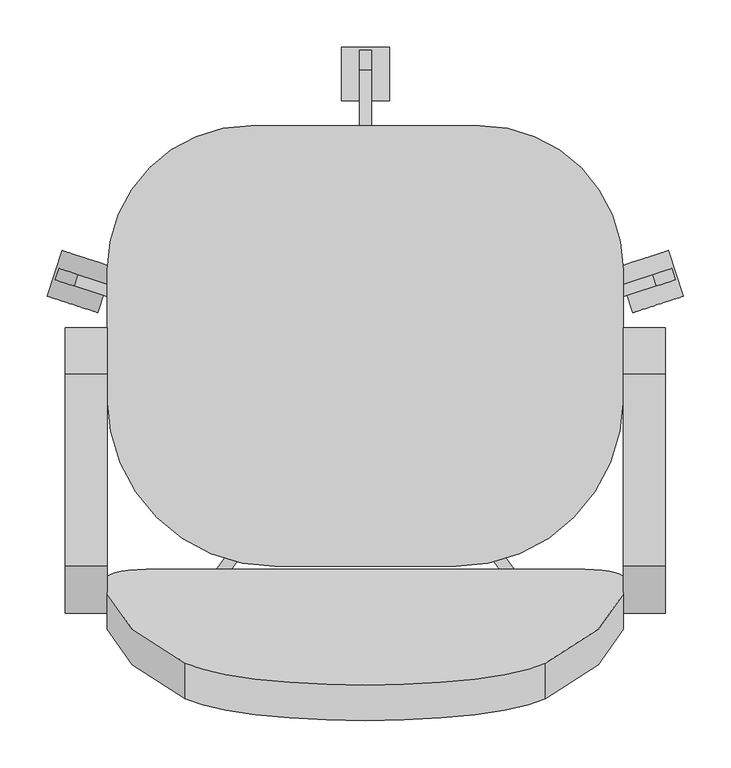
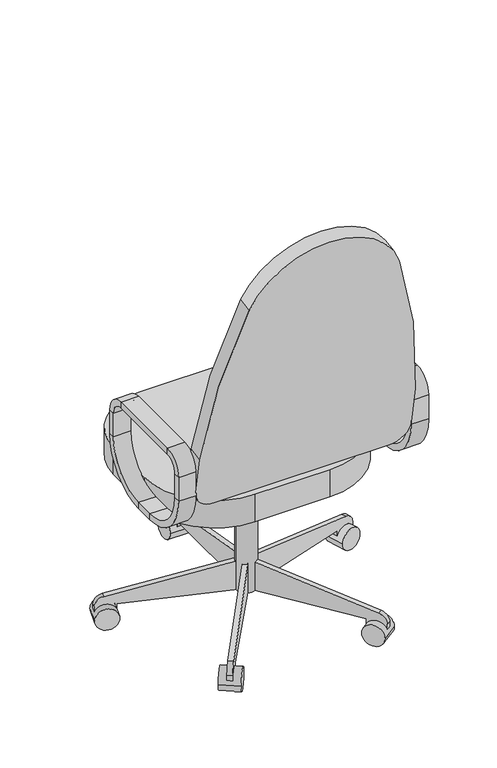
"""IFC4 building model written with IfcOpenShell, lengths in millimetres: furniture geometry, M_Silla-Ejecutivo : M_Silla-Ejecutivo."""

from ifc_helpers import new_model, si_unit, point, frame, frame_2d, origin, place, context, project, spatial, polyline, circle_curve, trimmed, segment, composite_curve, outline, extrude, source, transform, mapped, element, save
from ifc_brep_helpers import plane_surface, cylinder_surface, revolved_surface, advanced_brep


def furniture_a6d00652(model_context):
    return source(origin(), model_context, "Body", "SolidModel", [
        extrude(outline(polyline([(69.7459016, 383.7835944), (69.7459016, 371.0835944), (18.9459016, 283.0954134), (-19.1540984, 283.0954134), (-19.1540984, 383.7835944), (69.7459016, 383.7835944)])), frame((90.1908197, 0.0, 0.0), z_axis=(1.0, 0.0, 0.0), x_axis=(0.0, 1.0, 0.0)), (0.0, 0.0, 1.0), 101.6),
        extrude(outline(composite_curve([segment(polyline([(311.0459016, 53.5835944), (18.9459016, 53.5835944), (18.9459016, 129.7835944), (44.3459016, 129.7835944), (340.8565654, 77.5007643)]), True, "CONTINUOUS"), segment(trimmed(circle_curve(frame_2d((336.4459016, 52.4866474)), 25.4), [point((340.8565654, 77.5007643))], [point((361.8459016, 52.4866474))], False, "CARTESIAN"), True, "CONTINUOUS"), segment(polyline([(361.8459016, 52.4866474), (361.8459016, 28.1835944), (311.0459016, 28.1835944), (311.0459016, 53.5835944)]), True, "CONTINUOUS")], self_intersect=False)), frame((134.6408197, 0.0, 0.0), z_axis=(1.0, 0.0, 0.0), x_axis=(0.0, 1.0, 0.0)), (0.0, 0.0, 1.0), 12.7),
        extrude(outline(composite_curve([segment(trimmed(circle_curve(frame_2d((336.4459016, 28.1835944)), 28.2002727), [point((308.2456289, 28.1835944))], [point((364.6461744, 28.1835944))], False, "CARTESIAN"), True, "CONTINUOUS"), segment(trimmed(circle_curve(frame_2d((336.4459016, 28.1835944)), 28.2002727), [point((364.6461744, 28.1835944))], [point((308.2456289, 28.1835944))], False, "CARTESIAN"), True, "CONTINUOUS")], self_intersect=False)), frame((115.5908197, 0.0, 0.0), z_axis=(1.0, 0.0, 0.0), x_axis=(0.0, 1.0, 0.0)), (0.0, 0.0, 1.0), 50.8),
        extrude(outline(composite_curve([segment(polyline([(25.4, 0.0), (25.4, 292.1000001), (101.6, 292.1000001), (101.6, 266.7), (49.3171699, -29.8106636)]), True, "CONTINUOUS"), segment(trimmed(circle_curve(frame_2d((24.303053, -25.4)), 25.4), [point((49.3171699, -29.8106636))], [point((24.303053, -50.8))], False, "CARTESIAN"), True, "CONTINUOUS"), segment(polyline([(24.303053, -50.8), (0.0, -50.8), (0.0, 0.0), (25.4, 0.0)]), True, "CONTINUOUS")], self_intersect=False)), frame((-138.7750467, 103.1705568, 28.1835944), z_axis=(0.3090169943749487, 0.9510565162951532, 0.0), x_axis=(0.0, 0.0, 1.0)), (0.0, 0.0, 1.0), 12.7),
        extrude(outline(composite_curve([segment(trimmed(circle_curve(frame_2d((0.0, -28.2002727)), 28.2002727), [point((0.0, -56.4005454))], [point((0.0, 0.0))], False, "CARTESIAN"), True, "CONTINUOUS"), segment(trimmed(circle_curve(frame_2d((0.0, -28.2002727)), 28.2002727), [point((0.0, 0.0))], [point((0.0, -56.4005454))], False, "CARTESIAN"), True, "CONTINUOUS")], self_intersect=False)), frame((-195.638709, 101.6163254, 28.1835944), z_axis=(0.3090169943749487, 0.9510565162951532, 0.0), x_axis=(0.0, 0.0, -1.0)), (0.0, 0.0, 1.0), 50.8),
        extrude(outline(composite_curve([segment(polyline([(25.4, 0.0), (25.4, 292.1), (101.6, 292.1), (101.6, 266.7), (49.3171699, -29.8106637)]), True, "CONTINUOUS"), segment(trimmed(circle_curve(frame_2d((24.303053, -25.3999999)), 25.4), [point((49.3171699, -29.8106637))], [point((24.303053, -50.8))], False, "CARTESIAN"), True, "CONTINUOUS"), segment(polyline([(24.303053, -50.8), (0.0, -50.8), (0.0, 0.0), (25.4, 0.0)]), True, "CONTINUOUS")], self_intersect=False)), frame((-25.5639946, -221.1003988, 28.1835944), z_axis=(-0.8090169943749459, 0.5877852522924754, 0.0), x_axis=(0.0, 0.0, 1.0)), (0.0, 0.0, 1.0), 12.7),
        extrude(outline(composite_curve([segment(trimmed(circle_curve(frame_2d((0.0, -28.2002727)), 28.2002727), [point((0.0, -56.4005455))], [point((0.0, 0.0))], False, "CARTESIAN"), True, "CONTINUOUS"), segment(trimmed(circle_curve(frame_2d((0.0, -28.2002727)), 28.2002727), [point((0.0, 0.0))], [point((0.0, -56.4005455))], False, "CARTESIAN"), True, "CONTINUOUS")], self_intersect=False)), frame((-41.6576707, -275.6612394, 28.1835944), z_axis=(-0.8090169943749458, 0.5877852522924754, 0.0), x_axis=(0.0, 0.0, -1.0)), (0.0, 0.0, 1.0), 50.8),
        extrude(outline(composite_curve([segment(polyline([(-25.4, 0.0), (0.0, 0.0), (0.0, -50.8), (-24.303053, -50.8)]), True, "CONTINUOUS"), segment(trimmed(circle_curve(frame_2d((-24.303053, -25.3999999)), 25.4), [point((-24.303053, -50.8))], [point((-49.3171699, -29.8106636))], False, "CARTESIAN"), True, "CONTINUOUS"), segment(polyline([(-49.3171699, -29.8106636), (-101.6, 266.7), (-101.6, 292.1), (-25.4, 292.1), (-25.4, 0.0)]), True, "CONTINUOUS")], self_intersect=False)), frame((307.545634, -221.1003988, 28.1835944), z_axis=(0.8090169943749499, 0.5877852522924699, 0.0), x_axis=(0.0, 0.0, -1.0)), (0.0, 0.0, 1.0), 12.7),
        extrude(outline(composite_curve([segment(trimmed(circle_curve(frame_2d((0.0, -28.2002727)), 28.2002727), [point((0.0, -56.4005455))], [point((0.0, 0.0))], False, "CARTESIAN"), True, "CONTINUOUS"), segment(trimmed(circle_curve(frame_2d((0.0, -28.2002727)), 28.2002727), [point((0.0, 0.0))], [point((0.0, -56.4005455))], False, "CARTESIAN"), True, "CONTINUOUS")], self_intersect=False)), frame((323.63931, -275.6612394, 28.1835944), z_axis=(0.8090169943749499, 0.5877852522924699, 0.0), x_axis=(0.0, 0.0, 1.0)), (0.0, 0.0, 1.0), 50.8),
        extrude(outline(composite_curve([segment(polyline([(-25.4, 0.0), (0.0, 0.0), (0.0, -50.8), (-24.303053, -50.8)]), True, "CONTINUOUS"), segment(trimmed(circle_curve(frame_2d((-24.303053, -25.4)), 25.4), [point((-24.303053, -50.8))], [point((-49.3171699, -29.8106637))], False, "CARTESIAN"), True, "CONTINUOUS"), segment(polyline([(-49.3171699, -29.8106637), (-101.6, 266.7), (-101.6, 292.1), (-25.4, 292.1), (-25.4, 0.0)]), True, "CONTINUOUS")], self_intersect=False)), frame((420.756686, 103.1705568, 28.1835944), z_axis=(-0.3090169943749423, 0.9510565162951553, 0.0), x_axis=(0.0, 0.0, -1.0)), (0.0, 0.0, 1.0), 12.7),
        extrude(outline(composite_curve([segment(trimmed(circle_curve(frame_2d((0.0, -28.2002727)), 28.2002727), [point((0.0, -56.4005455))], [point((0.0, 0.0))], False, "CARTESIAN"), True, "CONTINUOUS"), segment(trimmed(circle_curve(frame_2d((0.0, -28.2002727)), 28.2002727), [point((0.0, 0.0))], [point((0.0, -56.4005455))], False, "CARTESIAN"), True, "CONTINUOUS")], self_intersect=False)), frame((477.6203484, 101.6163254, 28.1835944), z_axis=(-0.3090169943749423, 0.9510565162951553, 0.0), x_axis=(0.0, 0.0, 1.0)), (0.0, 0.0, 1.0), 50.8),
        extrude(outline(composite_curve([segment(trimmed(circle_curve(frame_2d((140.9908197, 18.9459016)), 25.4), [point((115.5908197, 18.9459016))], [point((166.3908197, 18.9459016))], False, "CARTESIAN"), True, "CONTINUOUS"), segment(trimmed(circle_curve(frame_2d((140.9908197, 18.9459016)), 25.4), [point((166.3908197, 18.9459016))], [point((115.5908197, 18.9459016))], False, "CARTESIAN"), True, "CONTINUOUS")], self_intersect=False)), frame((0.0, 0.0, 53.5835944), z_axis=(0.0, 0.0, 1.0), x_axis=(1.0, 0.0, 0.0)), (0.0, 0.0, 1.0), 330.5914056),
        extrude(outline(composite_curve([segment(trimmed(circle_curve(frame_2d((20.3408197, 129.4961016)), 152.4), [point((-132.0591803, 129.4961016))], [point((20.3408197, 281.8961016))], False, "CARTESIAN"), True, "CONTINUOUS"), segment(polyline([(20.3408197, 281.8961016), (261.6408197, 281.8961016)]), True, "CONTINUOUS"), segment(trimmed(circle_curve(frame_2d((261.6408197, 129.4961016)), 152.4), [point((261.6408197, 281.8961016))], [point((414.0408197, 129.4961016))], False, "CARTESIAN"), True, "CONTINUOUS"), segment(polyline([(414.0408197, 129.4961016), (414.0408197, -6.4540984)]), True, "CONTINUOUS"), segment(trimmed(circle_curve(frame_2d((236.2408197, -6.4540984)), 177.8), [point((414.0408197, -6.4540984))], [point((236.2408197, -184.2540984))], False, "CARTESIAN"), True, "CONTINUOUS"), segment(polyline([(236.2408197, -184.2540984), (45.7408197, -184.2540984)]), True, "CONTINUOUS"), segment(trimmed(circle_curve(frame_2d((45.7408197, -6.4540984)), 177.8), [point((45.7408197, -184.2540984))], [point((-132.0591803, -6.4540984))], False, "CARTESIAN"), True, "CONTINUOUS"), segment(polyline([(-132.0591803, -6.4540984), (-132.0591803, 129.4961016)]), True, "CONTINUOUS")], self_intersect=False)), frame((0.0, 0.0, 383.7835944), z_axis=(0.0, 0.0, 1.0), x_axis=(1.0, 0.0, 0.0)), (0.0, 0.0, 1.0), 73.4164056),
        extrude(outline(composite_curve([segment(trimmed(circle_curve(frame_2d((0.0, -50.8)), 50.8), [point((0.0, 0.0))], [point((50.8, -50.8))], False, "CARTESIAN"), True, "CONTINUOUS"), segment(polyline([(50.8, -50.8), (50.8, -152.4)]), True, "CONTINUOUS"), segment(trimmed(circle_curve(frame_2d((-1471.2021854, -74.3913617)), 1524.0), [point((50.8, -152.4))], [point((-31.75, -574.9444618))], False, "CARTESIAN"), True, "CONTINUOUS"), segment(trimmed(circle_curve(frame_2d((-222.25, -504.2338544)), 203.2), [point((-31.75, -574.9444618))], [point((-412.75, -574.9444618))], False, "CARTESIAN"), True, "CONTINUOUS"), segment(trimmed(circle_curve(frame_2d((1026.7021854, -74.3913617)), 1524.0), [point((-412.75, -574.9444618))], [point((-495.3, -152.4))], False, "CARTESIAN"), True, "CONTINUOUS"), segment(polyline([(-495.3, -152.4), (-495.3, -50.8)]), True, "CONTINUOUS"), segment(trimmed(circle_curve(frame_2d((-444.5, -50.8)), 50.8), [point((-495.3, -50.8))], [point((-444.5, 0.0))], False, "CARTESIAN"), True, "CONTINUOUS"), segment(polyline([(-444.5, 0.0), (0.0, 0.0)]), True, "CONTINUOUS")], self_intersect=False)), frame((363.2408197, -224.5698964, 503.1641822), z_axis=(0.0, 0.9848077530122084, 0.17364817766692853), x_axis=(1.0, 0.0, 0.0)), (0.0, 0.0, 1.0), 38.1),
        advanced_brep(
        [(414.0408197, -233.6623012, 546.1), (414.0408197, -108.0540984, 420.4917972), (458.4908197, -108.0540984, 420.4917972), (458.4908197, -233.6623012, 546.1), (414.0408197, -217.7873012, 546.1), (414.0408197, -108.0540984, 436.3667972), (458.4908197, -217.7873012, 546.1), (458.4908197, -108.0540984, 436.3667972), (458.4908197, -233.6623012, 609.6), (414.0408197, -233.6623012, 609.6), (414.0408197, -217.7873012, 609.6), (458.4908197, -217.7873012, 609.6), (414.0408197, -184.2540984, 659.0082028), (458.4908197, -184.2540984, 659.0082028), (414.0408197, -184.2540984, 643.1332028), (458.4908197, -184.2540984, 643.1332028), (458.4908197, 18.9459016, 659.0082028), (414.0408197, 18.9459016, 659.0082028), (414.0408197, 18.9459016, 643.1332028), (458.4908197, 18.9459016, 643.1332028), (414.0408197, 68.3541044, 609.6), (458.4908197, 68.3541044, 609.6), (414.0408197, 52.4791044, 609.6), (458.4908197, 52.4791044, 609.6), (458.4908197, 68.3541044, 546.1), (414.0408197, 68.3541044, 546.1), (414.0408197, 52.4791044, 546.1), (458.4908197, 52.4791044, 546.1), (414.0408197, -57.2540984, 420.4917972), (458.4908197, -57.2540984, 420.4917972), (414.0408197, -57.2540984, 436.3667972), (458.4908197, -57.2540984, 436.3667972)],
        [
            (0, 1, circle_curve(frame((414.0408197, -108.0540984, 546.1), z_axis=(1.0, 0.0, 0.0), x_axis=(0.0, 0.0, -1.0)), 125.6082028)),
            (1, 2),
            (2, 3, circle_curve(frame((458.4908197, -108.0540984, 546.1), z_axis=(-1.0, 0.0, 0.0), x_axis=(0.0, 0.0, -1.0)), 125.6082028)),
            (3, 0),
            (4, 5, circle_curve(frame((414.0408197, -108.0540984, 546.1), z_axis=(1.0, 0.0, 0.0), x_axis=(0.0, 0.0, -1.0)), 109.7332028)),
            (5, 1),
            (0, 4),
            (6, 7, circle_curve(frame((458.4908197, -108.0540984, 546.1), z_axis=(1.0, 0.0, 0.0), x_axis=(0.0, 0.0, -1.0)), 109.7332028)),
            (7, 5),
            (4, 6),
            (2, 7),
            (6, 3),
            (3, 8),
            (8, 9),
            (9, 0),
            (9, 10),
            (10, 4),
            (10, 11),
            (11, 6),
            (11, 8),
            (12, 9, circle_curve(frame((414.0408197, -184.2540984, 609.6), z_axis=(1.0, 0.0, 0.0), x_axis=(0.0, -1.0, 0.0)), 49.4082028)),
            (8, 13, circle_curve(frame((458.4908197, -184.2540984, 609.6), z_axis=(-1.0, 0.0, 0.0), x_axis=(0.0, -1.0, 0.0)), 49.4082028)),
            (13, 12),
            (14, 10, circle_curve(frame((414.0408197, -184.2540984, 609.6), z_axis=(1.0, 0.0, 0.0), x_axis=(0.0, -1.0, 0.0)), 33.5332028)),
            (12, 14),
            (15, 11, circle_curve(frame((458.4908197, -184.2540984, 609.6), z_axis=(1.0, 0.0, 0.0), x_axis=(0.0, -1.0, 0.0)), 33.5332028)),
            (14, 15),
            (15, 13),
            (13, 16),
            (16, 17),
            (17, 12),
            (17, 18),
            (18, 14),
            (18, 19),
            (19, 15),
            (19, 16),
            (20, 17, circle_curve(frame((414.0408197, 18.9459016, 609.6), z_axis=(1.0, 0.0, 0.0), x_axis=(0.0, 0.0, 1.0)), 49.4082028)),
            (16, 21, circle_curve(frame((458.4908197, 18.9459016, 609.6), z_axis=(-1.0, 0.0, 0.0), x_axis=(0.0, 0.0, 1.0)), 49.4082028)),
            (21, 20),
            (22, 18, circle_curve(frame((414.0408197, 18.9459016, 609.6), z_axis=(1.0, 0.0, 0.0), x_axis=(0.0, 0.0, 1.0)), 33.5332028)),
            (20, 22),
            (23, 19, circle_curve(frame((458.4908197, 18.9459016, 609.6), z_axis=(1.0, 0.0, 0.0), x_axis=(0.0, 0.0, 1.0)), 33.5332028)),
            (22, 23),
            (23, 21),
            (21, 24),
            (24, 25),
            (25, 20),
            (25, 26),
            (26, 22),
            (26, 27),
            (27, 23),
            (27, 24),
            (28, 25, circle_curve(frame((414.0408197, -57.2540984, 546.1), z_axis=(1.0, 0.0, 0.0), x_axis=(0.0, 1.0, 0.0)), 125.6082028)),
            (24, 29, circle_curve(frame((458.4908197, -57.2540984, 546.1), z_axis=(-1.0, 0.0, 0.0), x_axis=(0.0, 1.0, 0.0)), 125.6082028)),
            (29, 28),
            (30, 26, circle_curve(frame((414.0408197, -57.2540984, 546.1), z_axis=(1.0, 0.0, 0.0), x_axis=(0.0, 1.0, 0.0)), 109.7332028)),
            (28, 30),
            (31, 27, circle_curve(frame((458.4908197, -57.2540984, 546.1), z_axis=(1.0, 0.0, 0.0), x_axis=(0.0, 1.0, 0.0)), 109.7332028)),
            (30, 31),
            (31, 29),
            (29, 2),
            (1, 28),
            (5, 30),
            (7, 31),
        ],
        [
            cylinder_surface(frame((414.0408197, -108.0540984, 546.1), z_axis=(-1.0, 0.0, 0.0), x_axis=(0.0, 0.0, -1.0)), 125.6082028),
            plane_surface(frame((414.0408197, -108.0540984, 546.1), z_axis=(-1.0, 0.0, 0.0), x_axis=(0.0, 0.0, -1.0))),
            revolved_surface(polyline([(414.0408197, -108.0540984, 436.3667972), (458.4908197, -108.0540984, 436.3667972)]), (414.0408197, -108.0540984, 546.1), (-1.0, 0.0, 0.0)),
            plane_surface(frame((458.4908197, -108.0540984, 546.1), z_axis=(1.0, 0.0, 0.0), x_axis=(0.0, 0.0, -1.0))),
            plane_surface(frame((458.4908197, -233.6623012, 546.1), z_axis=(0.0, -1.0, 0.0), x_axis=(0.0, 0.0, 1.0))),
            plane_surface(frame((414.0408197, -233.6623012, 546.1), z_axis=(-1.0, 0.0, 0.0), x_axis=(0.0, 0.0, 1.0))),
            plane_surface(frame((414.0408197, -217.7873012, 546.1), z_axis=(0.0, 1.0, 0.0), x_axis=(0.0, 0.0, 1.0))),
            plane_surface(frame((458.4908197, -217.7873012, 546.1), z_axis=(1.0, 0.0, 0.0), x_axis=(0.0, 0.0, 1.0))),
            cylinder_surface(frame((414.0408197, -184.2540984, 609.6), z_axis=(-1.0, 0.0, 0.0), x_axis=(0.0, -1.0, 0.0)), 49.4082028),
            plane_surface(frame((414.0408197, -184.2540984, 609.6), z_axis=(-1.0, 0.0, 0.0), x_axis=(0.0, -1.0, 0.0))),
            revolved_surface(polyline([(414.0408197, -217.7873012, 609.6), (458.4908197, -217.7873012, 609.6)]), (414.0408197, -184.2540984, 609.6), (-1.0, 0.0, 0.0)),
            plane_surface(frame((458.4908197, -184.2540984, 609.6), z_axis=(1.0, 0.0, 0.0), x_axis=(0.0, -1.0, 0.0))),
            plane_surface(frame((458.4908197, -184.2540984, 659.0082028), z_axis=(0.0, 0.0, 1.0), x_axis=(0.0, 1.0, 0.0))),
            plane_surface(frame((414.0408197, -184.2540984, 659.0082028), z_axis=(-1.0, 0.0, 0.0), x_axis=(0.0, 1.0, 0.0))),
            plane_surface(frame((414.0408197, -184.2540984, 643.1332028), z_axis=(0.0, 0.0, -1.0), x_axis=(0.0, 1.0, 0.0))),
            plane_surface(frame((458.4908197, -184.2540984, 643.1332028), z_axis=(1.0, 0.0, 0.0), x_axis=(0.0, 1.0, 0.0))),
            cylinder_surface(frame((414.0408197, 18.9459016, 609.6), z_axis=(-1.0, 0.0, 0.0), x_axis=(0.0, 0.0, 1.0)), 49.4082028),
            plane_surface(frame((414.0408197, 18.9459016, 609.6), z_axis=(-1.0, 0.0, 0.0), x_axis=(0.0, 0.0, 1.0))),
            revolved_surface(polyline([(414.0408197, 18.9459016, 643.1332028), (458.4908197, 18.9459016, 643.1332028)]), (414.0408197, 18.9459016, 609.6), (-1.0, 0.0, 0.0)),
            plane_surface(frame((458.4908197, 18.9459016, 609.6), z_axis=(1.0, 0.0, 0.0), x_axis=(0.0, 0.0, 1.0))),
            plane_surface(frame((458.4908197, 68.3541044, 609.6), z_axis=(0.0, 1.0, 0.0), x_axis=(0.0, 0.0, -1.0))),
            plane_surface(frame((414.0408197, 68.3541044, 609.6), z_axis=(-1.0, 0.0, 0.0), x_axis=(0.0, 0.0, -1.0))),
            plane_surface(frame((414.0408197, 52.4791044, 609.6), z_axis=(0.0, -1.0, 0.0), x_axis=(0.0, 0.0, -1.0))),
            plane_surface(frame((458.4908197, 52.4791044, 609.6), z_axis=(1.0, 0.0, 0.0), x_axis=(0.0, 0.0, -1.0))),
            cylinder_surface(frame((414.0408197, -57.2540984, 546.1), z_axis=(-1.0, 0.0, 0.0), x_axis=(0.0, 1.0, 0.0)), 125.6082028),
            plane_surface(frame((414.0408197, -57.2540984, 546.1), z_axis=(-1.0, 0.0, 0.0), x_axis=(0.0, 1.0, 0.0))),
            revolved_surface(polyline([(414.0408197, 52.479104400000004, 546.1), (458.4908197, 52.479104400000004, 546.1)]), (414.0408197, -57.2540984, 546.1), (-1.0, 0.0, 0.0)),
            plane_surface(frame((458.4908197, -57.2540984, 546.1), z_axis=(1.0, 0.0, 0.0), x_axis=(0.0, 1.0, 0.0))),
            plane_surface(frame((458.4908197, -57.2540984, 420.4917972), z_axis=(0.0, 0.0, -1.0), x_axis=(0.0, -1.0, 0.0))),
            plane_surface(frame((414.0408197, -57.2540984, 420.4917972), z_axis=(-1.0, 0.0, 0.0), x_axis=(0.0, -1.0, 0.0))),
            plane_surface(frame((414.0408197, -57.2540984, 436.3667972), z_axis=(0.0, 0.0, 1.0), x_axis=(0.0, -1.0, 0.0))),
            plane_surface(frame((458.4908197, -57.2540984, 436.3667972), z_axis=(1.0, 0.0, 0.0), x_axis=(0.0, -1.0, 0.0))),
        ],
        [
            (0, [[1, 2, 3, 4]]),
            (1, [[5, 6, -1, 7]]),
            (2, [[8, 9, -5, 10]]),
            (3, [[-3, 11, -8, 12]]),
            (4, [[-4, 13, 14, 15]]),
            (5, [[-7, -15, 16, 17]]),
            (6, [[-10, -17, 18, 19]]),
            (7, [[-12, -19, 20, -13]]),
            (8, [[21, -14, 22, 23]]),
            (9, [[24, -16, -21, 25]]),
            (10, [[26, -18, -24, 27]]),
            (11, [[-22, -20, -26, 28]]),
            (12, [[-23, 29, 30, 31]]),
            (13, [[-25, -31, 32, 33]]),
            (14, [[-27, -33, 34, 35]]),
            (15, [[-28, -35, 36, -29]]),
            (16, [[37, -30, 38, 39]]),
            (17, [[40, -32, -37, 41]]),
            (18, [[42, -34, -40, 43]]),
            (19, [[-38, -36, -42, 44]]),
            (20, [[-39, 45, 46, 47]]),
            (21, [[-41, -47, 48, 49]]),
            (22, [[-43, -49, 50, 51]]),
            (23, [[-44, -51, 52, -45]]),
            (24, [[53, -46, 54, 55]]),
            (25, [[56, -48, -53, 57]]),
            (26, [[58, -50, -56, 59]]),
            (27, [[-54, -52, -58, 60]]),
            (28, [[-55, 61, -2, 62]]),
            (29, [[-57, -62, -6, 63]]),
            (30, [[-59, -63, -9, 64]]),
            (31, [[-60, -64, -11, -61]]),
        ],
    ),
        advanced_brep(
        [(-176.5091803, -217.7873012, 546.1), (-176.5091803, -108.0540984, 436.3667972), (-176.5091803, -108.0540984, 420.4917972), (-176.5091803, -233.6623012, 546.1), (-132.0591803, -217.7873012, 546.1), (-132.0591803, -108.0540984, 436.3667972), (-132.0591803, -233.6623012, 546.1), (-132.0591803, -108.0540984, 420.4917972), (-176.5091803, -233.6623012, 609.6), (-176.5091803, -217.7873012, 609.6), (-132.0591803, -217.7873012, 609.6), (-132.0591803, -233.6623012, 609.6), (-176.5091803, -184.2540984, 643.1332028), (-176.5091803, -184.2540984, 659.0082028), (-132.0591803, -184.2540984, 643.1332028), (-132.0591803, -184.2540984, 659.0082028), (-176.5091803, 18.9459016, 659.0082028), (-176.5091803, 18.9459016, 643.1332028), (-132.0591803, 18.9459016, 643.1332028), (-132.0591803, 18.9459016, 659.0082028), (-176.5091803, 52.4791044, 609.6), (-176.5091803, 68.3541044, 609.6), (-132.0591803, 52.4791044, 609.6), (-132.0591803, 68.3541044, 609.6), (-176.5091803, 68.3541044, 546.1), (-176.5091803, 52.4791044, 546.1), (-132.0591803, 52.4791044, 546.1), (-132.0591803, 68.3541044, 546.1), (-176.5091803, -57.2540984, 436.3667972), (-176.5091803, -57.2540984, 420.4917972), (-132.0591803, -57.2540984, 436.3667972), (-132.0591803, -57.2540984, 420.4917972)],
        [
            (0, 1, circle_curve(frame((-176.5091803, -108.0540984, 546.1), z_axis=(1.0, 0.0, 0.0), x_axis=(0.0, 0.0, -1.0)), 109.7332028)),
            (1, 2),
            (2, 3, circle_curve(frame((-176.5091803, -108.0540984, 546.1), z_axis=(-1.0, 0.0, 0.0), x_axis=(0.0, 0.0, -1.0)), 125.6082028)),
            (3, 0),
            (4, 5, circle_curve(frame((-132.0591803, -108.0540984, 546.1), z_axis=(1.0, 0.0, 0.0), x_axis=(0.0, 0.0, -1.0)), 109.7332028)),
            (5, 1),
            (0, 4),
            (6, 7, circle_curve(frame((-132.0591803, -108.0540984, 546.1), z_axis=(1.0, 0.0, 0.0), x_axis=(0.0, 0.0, -1.0)), 125.6082028)),
            (7, 5),
            (4, 6),
            (2, 7),
            (6, 3),
            (3, 8),
            (8, 9),
            (9, 0),
            (9, 10),
            (10, 4),
            (10, 11),
            (11, 6),
            (11, 8),
            (12, 9, circle_curve(frame((-176.5091803, -184.2540984, 609.6), z_axis=(1.0, 0.0, 0.0), x_axis=(0.0, -1.0, 0.0)), 33.5332028)),
            (8, 13, circle_curve(frame((-176.5091803, -184.2540984, 609.6), z_axis=(-1.0, 0.0, 0.0), x_axis=(0.0, -1.0, 0.0)), 49.4082028)),
            (13, 12),
            (14, 10, circle_curve(frame((-132.0591803, -184.2540984, 609.6), z_axis=(1.0, 0.0, 0.0), x_axis=(0.0, -1.0, 0.0)), 33.5332028)),
            (12, 14),
            (15, 11, circle_curve(frame((-132.0591803, -184.2540984, 609.6), z_axis=(1.0, 0.0, 0.0), x_axis=(0.0, -1.0, 0.0)), 49.4082028)),
            (14, 15),
            (15, 13),
            (13, 16),
            (16, 17),
            (17, 12),
            (17, 18),
            (18, 14),
            (18, 19),
            (19, 15),
            (19, 16),
            (20, 17, circle_curve(frame((-176.5091803, 18.9459016, 609.6), z_axis=(1.0, 0.0, 0.0), x_axis=(0.0, 0.0, 1.0)), 33.5332028)),
            (16, 21, circle_curve(frame((-176.5091803, 18.9459016, 609.6), z_axis=(-1.0, 0.0, 0.0), x_axis=(0.0, 0.0, 1.0)), 49.4082028)),
            (21, 20),
            (22, 18, circle_curve(frame((-132.0591803, 18.9459016, 609.6), z_axis=(1.0, 0.0, 0.0), x_axis=(0.0, 0.0, 1.0)), 33.5332028)),
            (20, 22),
            (23, 19, circle_curve(frame((-132.0591803, 18.9459016, 609.6), z_axis=(1.0, 0.0, 0.0), x_axis=(0.0, 0.0, 1.0)), 49.4082028)),
            (22, 23),
            (23, 21),
            (21, 24),
            (24, 25),
            (25, 20),
            (25, 26),
            (26, 22),
            (26, 27),
            (27, 23),
            (27, 24),
            (28, 25, circle_curve(frame((-176.5091803, -57.2540984, 546.1), z_axis=(1.0, 0.0, 0.0), x_axis=(0.0, 1.0, 0.0)), 109.7332028)),
            (24, 29, circle_curve(frame((-176.5091803, -57.2540984, 546.1), z_axis=(-1.0, 0.0, 0.0), x_axis=(0.0, 1.0, 0.0)), 125.6082028)),
            (29, 28),
            (30, 26, circle_curve(frame((-132.0591803, -57.2540984, 546.1), z_axis=(1.0, 0.0, 0.0), x_axis=(0.0, 1.0, 0.0)), 109.7332028)),
            (28, 30),
            (31, 27, circle_curve(frame((-132.0591803, -57.2540984, 546.1), z_axis=(1.0, 0.0, 0.0), x_axis=(0.0, 1.0, 0.0)), 125.6082028)),
            (30, 31),
            (31, 29),
            (29, 2),
            (1, 28),
            (5, 30),
            (7, 31),
        ],
        [
            plane_surface(frame((-176.5091803, -108.0540984, 546.1), z_axis=(-1.0, 0.0, 0.0), x_axis=(0.0, 0.0, -1.0))),
            revolved_surface(polyline([(-176.5091803, -108.0540984, 436.3667972), (-132.0591803, -108.0540984, 436.3667972)]), (-132.0591803, -108.0540984, 546.1), (-1.0, 0.0, 0.0)),
            plane_surface(frame((-132.0591803, -108.0540984, 546.1), z_axis=(1.0, 0.0, 0.0), x_axis=(0.0, 0.0, -1.0))),
            cylinder_surface(frame((-132.0591803, -108.0540984, 546.1), z_axis=(-1.0, 0.0, 0.0), x_axis=(0.0, 0.0, -1.0)), 125.6082028),
            plane_surface(frame((-176.5091803, -233.6623012, 546.1), z_axis=(-1.0, 0.0, 0.0), x_axis=(0.0, 0.0, 1.0))),
            plane_surface(frame((-176.5091803, -217.7873012, 546.1), z_axis=(0.0, 1.0, 0.0), x_axis=(0.0, 0.0, 1.0))),
            plane_surface(frame((-132.0591803, -217.7873012, 546.1), z_axis=(1.0, 0.0, 0.0), x_axis=(0.0, 0.0, 1.0))),
            plane_surface(frame((-132.0591803, -233.6623012, 546.1), z_axis=(0.0, -1.0, 0.0), x_axis=(0.0, 0.0, 1.0))),
            plane_surface(frame((-176.5091803, -184.2540984, 609.6), z_axis=(-1.0, 0.0, 0.0), x_axis=(0.0, -1.0, 0.0))),
            revolved_surface(polyline([(-176.5091803, -217.7873012, 609.6), (-132.0591803, -217.7873012, 609.6)]), (-132.0591803, -184.2540984, 609.6), (-1.0, 0.0, 0.0)),
            plane_surface(frame((-132.0591803, -184.2540984, 609.6), z_axis=(1.0, 0.0, 0.0), x_axis=(0.0, -1.0, 0.0))),
            cylinder_surface(frame((-132.0591803, -184.2540984, 609.6), z_axis=(-1.0, 0.0, 0.0), x_axis=(0.0, -1.0, 0.0)), 49.4082028),
            plane_surface(frame((-176.5091803, -184.2540984, 659.0082028), z_axis=(-1.0, 0.0, 0.0), x_axis=(0.0, 1.0, 0.0))),
            plane_surface(frame((-176.5091803, -184.2540984, 643.1332028), z_axis=(0.0, 0.0, -1.0), x_axis=(0.0, 1.0, 0.0))),
            plane_surface(frame((-132.0591803, -184.2540984, 643.1332028), z_axis=(1.0, 0.0, 0.0), x_axis=(0.0, 1.0, 0.0))),
            plane_surface(frame((-132.0591803, -184.2540984, 659.0082028), z_axis=(0.0, 0.0, 1.0), x_axis=(0.0, 1.0, 0.0))),
            plane_surface(frame((-176.5091803, 18.9459016, 609.6), z_axis=(-1.0, 0.0, 0.0), x_axis=(0.0, 0.0, 1.0))),
            revolved_surface(polyline([(-176.5091803, 18.9459016, 643.1332028), (-132.0591803, 18.9459016, 643.1332028)]), (-132.0591803, 18.9459016, 609.6), (-1.0, 0.0, 0.0)),
            plane_surface(frame((-132.0591803, 18.9459016, 609.6), z_axis=(1.0, 0.0, 0.0), x_axis=(0.0, 0.0, 1.0))),
            cylinder_surface(frame((-132.0591803, 18.9459016, 609.6), z_axis=(-1.0, 0.0, 0.0), x_axis=(0.0, 0.0, 1.0)), 49.4082028),
            plane_surface(frame((-176.5091803, 68.3541044, 609.6), z_axis=(-1.0, 0.0, 0.0), x_axis=(0.0, 0.0, -1.0))),
            plane_surface(frame((-176.5091803, 52.4791044, 609.6), z_axis=(0.0, -1.0, 0.0), x_axis=(0.0, 0.0, -1.0))),
            plane_surface(frame((-132.0591803, 52.4791044, 609.6), z_axis=(1.0, 0.0, 0.0), x_axis=(0.0, 0.0, -1.0))),
            plane_surface(frame((-132.0591803, 68.3541044, 609.6), z_axis=(0.0, 1.0, 0.0), x_axis=(0.0, 0.0, -1.0))),
            plane_surface(frame((-176.5091803, -57.2540984, 546.1), z_axis=(-1.0, 0.0, 0.0), x_axis=(0.0, 1.0, 0.0))),
            revolved_surface(polyline([(-176.5091803, 52.479104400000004, 546.1), (-132.0591803, 52.479104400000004, 546.1)]), (-132.0591803, -57.2540984, 546.1), (-1.0, 0.0, 0.0)),
            plane_surface(frame((-132.0591803, -57.2540984, 546.1), z_axis=(1.0, 0.0, 0.0), x_axis=(0.0, 1.0, 0.0))),
            cylinder_surface(frame((-132.0591803, -57.2540984, 546.1), z_axis=(-1.0, 0.0, 0.0), x_axis=(0.0, 1.0, 0.0)), 125.6082028),
            plane_surface(frame((-176.5091803, -57.2540984, 420.4917972), z_axis=(-1.0, 0.0, 0.0), x_axis=(0.0, -1.0, 0.0))),
            plane_surface(frame((-176.5091803, -57.2540984, 436.3667972), z_axis=(0.0, 0.0, 1.0), x_axis=(0.0, -1.0, 0.0))),
            plane_surface(frame((-132.0591803, -57.2540984, 436.3667972), z_axis=(1.0, 0.0, 0.0), x_axis=(0.0, -1.0, 0.0))),
            plane_surface(frame((-132.0591803, -57.2540984, 420.4917972), z_axis=(0.0, 0.0, -1.0), x_axis=(0.0, -1.0, 0.0))),
        ],
        [
            (0, [[1, 2, 3, 4]]),
            (1, [[5, 6, -1, 7]]),
            (2, [[8, 9, -5, 10]]),
            (3, [[-3, 11, -8, 12]]),
            (4, [[-4, 13, 14, 15]]),
            (5, [[-7, -15, 16, 17]]),
            (6, [[-10, -17, 18, 19]]),
            (7, [[-12, -19, 20, -13]]),
            (8, [[21, -14, 22, 23]]),
            (9, [[24, -16, -21, 25]]),
            (10, [[26, -18, -24, 27]]),
            (11, [[-22, -20, -26, 28]]),
            (12, [[-23, 29, 30, 31]]),
            (13, [[-25, -31, 32, 33]]),
            (14, [[-27, -33, 34, 35]]),
            (15, [[-28, -35, 36, -29]]),
            (16, [[37, -30, 38, 39]]),
            (17, [[40, -32, -37, 41]]),
            (18, [[42, -34, -40, 43]]),
            (19, [[-38, -36, -42, 44]]),
            (20, [[-39, 45, 46, 47]]),
            (21, [[-41, -47, 48, 49]]),
            (22, [[-43, -49, 50, 51]]),
            (23, [[-44, -51, 52, -45]]),
            (24, [[53, -46, 54, 55]]),
            (25, [[56, -48, -53, 57]]),
            (26, [[58, -50, -56, 59]]),
            (27, [[-54, -52, -58, 60]]),
            (28, [[-55, 61, -2, 62]]),
            (29, [[-57, -62, -6, 63]]),
            (30, [[-59, -63, -9, 64]]),
            (31, [[-60, -64, -11, -61]]),
        ],
    ),
    ])


if __name__ == "__main__":
    model = new_model("IFC4")
    model_context = context("Model", 3, world=origin())
    ifc_project = project(units=[si_unit("LENGTHUNIT", "METRE", prefix="MILLI")], contexts=[model_context])
    site = spatial("IfcSite", under=ifc_project)
    building = spatial("IfcBuilding", under=site)
    placement = place(None, origin())
    furniture_shape = furniture_a6d00652(model_context)
    element("IfcFurniture", 1, ObjectType="M_Silla-Ejecutivo : M_Silla-Ejecutivo", at=placement, inside=building, context=model_context, shape_type="MappedRepresentation", body=[
        mapped(furniture_shape, transform((0.0, 0.0, 0.0), x_axis=(1.0, 0.0, 0.0), y_axis=(0.0, 1.0, 0.0), z_axis=(0.0, 0.0, 1.0))),
    ])
    save(model, "model.ifc")
